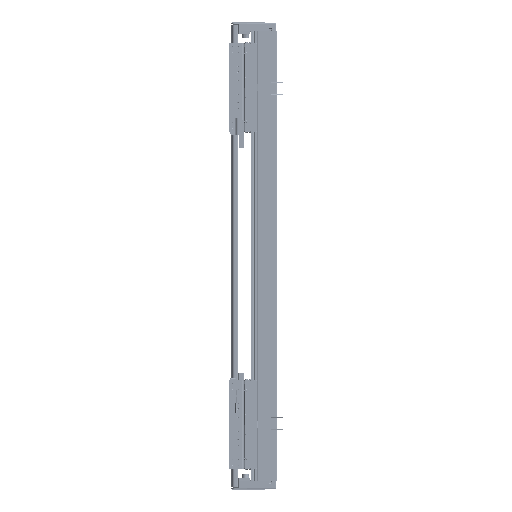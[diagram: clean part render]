
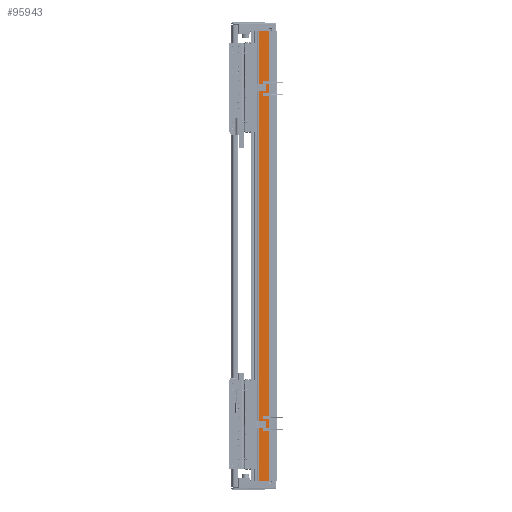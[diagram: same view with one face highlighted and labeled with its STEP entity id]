
A CAD part, left-side view. The second image highlights one B-rep face of the part: STEP entity #95943.
In plain terms, the highlighted planar face has unit normal (-1, 0, 0).
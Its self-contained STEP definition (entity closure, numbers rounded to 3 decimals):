
#2551 = VECTOR ( 'NONE', #81444, 1000. ) ;
#7803 = CARTESIAN_POINT ( 'NONE',  ( -97.5, 36.95, 480. ) ) ;
#9760 = PLANE ( 'NONE',  #59152 ) ;
#14756 = LINE ( 'NONE', #73785, #30506 ) ;
#15713 = EDGE_CURVE ( 'NONE', #142255, #74273, #22380, .T. ) ;
#22380 = LINE ( 'NONE', #118230, #2551 ) ;
#26245 = VECTOR ( 'NONE', #135138, 1000. ) ;
#30506 = VECTOR ( 'NONE', #61521, 1000. ) ;
#33736 = ORIENTED_EDGE ( 'NONE', *, *, #73825, .F. ) ;
#34982 = ORIENTED_EDGE ( 'NONE', *, *, #64048, .T. ) ;
#40790 = DIRECTION ( 'NONE',  ( 0., -1., 0. ) ) ;
#44543 = LINE ( 'NONE', #7803, #26245 ) ;
#45119 = CARTESIAN_POINT ( 'NONE',  ( -97.5, 14.45, 480. ) ) ;
#48012 = FACE_OUTER_BOUND ( 'NONE', #126686, .T. ) ;
#59152 = AXIS2_PLACEMENT_3D ( 'NONE', #104830, #151584, #141623 ) ;
#60835 = VECTOR ( 'NONE', #40790, 1000. ) ;
#61521 = DIRECTION ( 'NONE',  ( 0., -1., 0. ) ) ;
#64048 = EDGE_CURVE ( 'NONE', #118812, #99037, #44543, .T. ) ;
#73785 = CARTESIAN_POINT ( 'NONE',  ( -97.5, 36.95, 480. ) ) ;
#73825 = EDGE_CURVE ( 'NONE', #118812, #142255, #14756, .T. ) ;
#74273 = VERTEX_POINT ( 'NONE', #78884 ) ;
#78884 = CARTESIAN_POINT ( 'NONE',  ( -97.5, 14.45, -480. ) ) ;
#81444 = DIRECTION ( 'NONE',  ( 0., 0., -1. ) ) ;
#89909 = CARTESIAN_POINT ( 'NONE',  ( -97.5, 36.95, 480. ) ) ;
#95943 = ADVANCED_FACE ( 'NONE', ( #48012 ), #9760, .F. ) ;
#97042 = ORIENTED_EDGE ( 'NONE', *, *, #141822, .T. ) ;
#99037 = VERTEX_POINT ( 'NONE', #105424 ) ;
#104830 = CARTESIAN_POINT ( 'NONE',  ( -97.5, 36.95, 480. ) ) ;
#105424 = CARTESIAN_POINT ( 'NONE',  ( -97.5, 36.95, -480. ) ) ;
#118230 = CARTESIAN_POINT ( 'NONE',  ( -97.5, 14.45, 480. ) ) ;
#118812 = VERTEX_POINT ( 'NONE', #89909 ) ;
#126686 = EDGE_LOOP ( 'NONE', ( #97042, #142867, #33736, #34982 ) ) ;
#135138 = DIRECTION ( 'NONE',  ( 0., 0., -1. ) ) ;
#136650 = LINE ( 'NONE', #145867, #60835 ) ;
#141623 = DIRECTION ( 'NONE',  ( 0., 1., 0. ) ) ;
#141822 = EDGE_CURVE ( 'NONE', #99037, #74273, #136650, .T. ) ;
#142255 = VERTEX_POINT ( 'NONE', #45119 ) ;
#142867 = ORIENTED_EDGE ( 'NONE', *, *, #15713, .F. ) ;
#145867 = CARTESIAN_POINT ( 'NONE',  ( -97.5, 36.95, -480. ) ) ;
#151584 = DIRECTION ( 'NONE',  ( 1., 0., 0. ) ) ;
